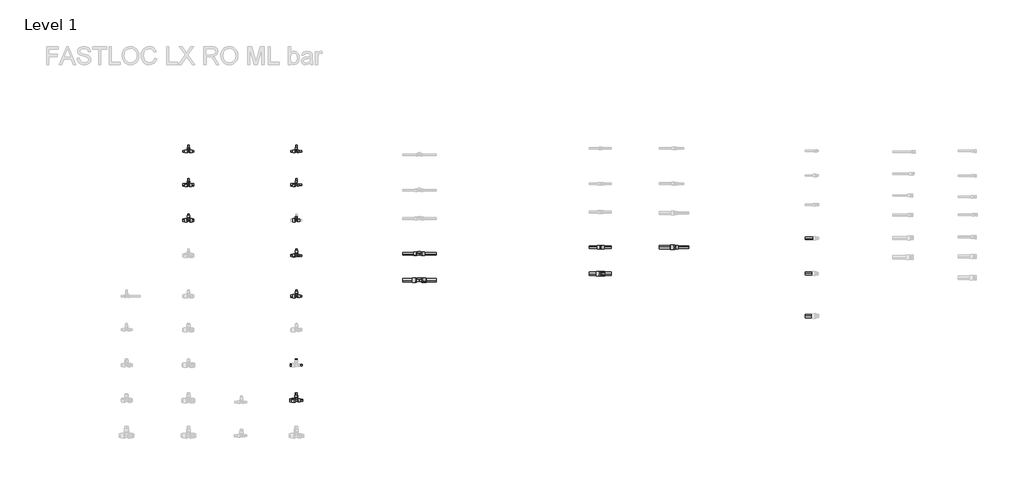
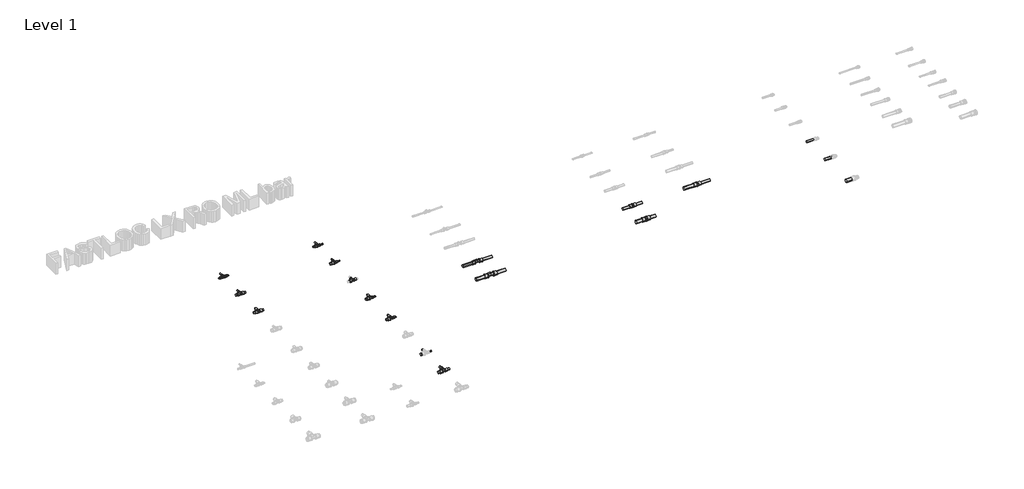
# One storey, part 17 of 78: 40 pipe segments, 14 pipe fittings.
"""IFC4 building model written with IfcOpenShell, lengths in millimetres."""

from ifc_helpers import new_model, si_unit, point, frame, frame_2d, origin, place, context, project, spatial, circle_curve, trimmed, segment, composite_curve, outline, extrude, transform, mapped, element, save
from components import pipe_fitting_14a26f43, pipe_fitting_91740978, pipe_fitting_5ae7c970, pipe_fitting_e97a97d3, pipe_fitting_d9a56b63, pipe_fitting_5d5decb5, pipe_fitting_c4e8b4db, pipe_fitting_8fb58d5f, pipe_fitting_db17a53a, pipe_fitting_3bea6388, pipe_fitting_e638986c, pipe_fitting_00caae07, pipe_fitting_f5731c1c, pipe_fitting_607ccf76

model = new_model("IFC4")

# Units and contexts
model_context = context("Model", 3, world=origin())
ifc_project = project(units=[si_unit("LENGTHUNIT", "METRE", prefix="MILLI")], contexts=[model_context])

# Site, building, storey
site = spatial("IfcSite", under=ifc_project)
building = spatial("IfcBuilding", under=site)
storey = spatial("IfcBuildingStorey", under=building, Name="Level 1", Elevation=0.0)

# Pipe fittings
placement = place(None, origin())
pipe_fitting_shape = pipe_fitting_14a26f43(model_context)
element("IfcPipeFitting", 1, ObjectType="FASTLOC_Coupling reduced LX : FSL C LX RO", at=placement, inside=storey, context=model_context, shape_type="MappedRepresentation", body=[
    mapped(pipe_fitting_shape, transform((30426.6928556, -28225.8821283, 0.0), x_axis=(1.0, 0.0, 0.0), y_axis=(0.0, 1.0, 0.0), z_axis=(0.0, 0.0, 1.0))),
])
pipe_fitting_2_shape = pipe_fitting_91740978(model_context)
element("IfcPipeFitting", 2, ObjectType="FASTLOC_T-piece internal thread LX : FSL T thread LX RO", at=placement, inside=storey, context=model_context, shape_type="MappedRepresentation", body=[
    mapped(pipe_fitting_2_shape, transform((27536.609585, -28299.8272875, 0.0), x_axis=(1.0, 0.0, 0.0), y_axis=(0.0, 1.0, 0.0), z_axis=(0.0, 0.0, 1.0))),
])
pipe_fitting_3_shape = pipe_fitting_5ae7c970(model_context)
element("IfcPipeFitting", 3, ObjectType="FASTLOC_T-piece_LX : FSL T-Piece LX FR", at=placement, inside=storey, context=model_context, shape_type="MappedRepresentation", body=[
    mapped(pipe_fitting_3_shape, transform((24926.7498072, -27140.2405791, 0.0), x_axis=(1.0, 0.0, 0.0), y_axis=(0.0, 1.0, 0.0), z_axis=(0.0, 0.0, 1.0))),
])
pipe_fitting_4_shape = pipe_fitting_e97a97d3(model_context)
element("IfcPipeFitting", 4, ObjectType="FASTLOC_T-piece_LX : FSL T-Piece LX RO", at=placement, inside=storey, context=model_context, shape_type="MappedRepresentation", body=[
    mapped(pipe_fitting_4_shape, transform((24926.7498072, -27520.2405791, 0.0), x_axis=(1.0, 0.0, 0.0), y_axis=(0.0, 1.0, 0.0), z_axis=(0.0, 0.0, 1.0))),
])
pipe_fitting_5_shape = pipe_fitting_d9a56b63(model_context)
element("IfcPipeFitting", 5, ObjectType="FASTLOC_T-piece_LX : FSL T-Piece LX RO", at=placement, inside=storey, context=model_context, shape_type="MappedRepresentation", body=[
    mapped(pipe_fitting_5_shape, transform((24926.7498072, -27920.2405791, 0.0), x_axis=(1.0, 0.0, 0.0), y_axis=(0.0, 1.0, 0.0), z_axis=(0.0, 0.0, 1.0))),
])
pipe_fitting_6_shape = pipe_fitting_5d5decb5(model_context)
element("IfcPipeFitting", 6, ObjectType="FASTLOC_T-piece_LX : FSL T-Piece LX RO", at=placement, inside=storey, context=model_context, shape_type="MappedRepresentation", body=[
    mapped(pipe_fitting_6_shape, transform((26146.7498072, -28780.2405791, 0.0), x_axis=(1.0, 0.0, 0.0), y_axis=(0.0, 1.0, 0.0), z_axis=(0.0, 0.0, 1.0))),
])
pipe_fitting_7_shape = pipe_fitting_c4e8b4db(model_context)
element("IfcPipeFitting", 7, ObjectType="FASTLOC_T-piece_LX : FSL T-Piece LX RO", at=placement, inside=storey, context=model_context, shape_type="MappedRepresentation", body=[
    mapped(pipe_fitting_7_shape, transform((26146.7498072, -29960.2405791, 0.0), x_axis=(1.0, 0.0, 0.0), y_axis=(0.0, 1.0, 0.0), z_axis=(0.0, 0.0, 1.0))),
])
pipe_fitting_8_shape = pipe_fitting_8fb58d5f(model_context)
element("IfcPipeFitting", 8, ObjectType="FASTLOC_T-piece_LX : FSL T-Piece LX RO", at=placement, inside=storey, context=model_context, shape_type="MappedRepresentation", body=[
    mapped(pipe_fitting_8_shape, transform((26146.7498072, -27140.2405791, 0.0), x_axis=(1.0, 0.0, 0.0), y_axis=(0.0, 1.0, 0.0), z_axis=(0.0, 0.0, 1.0))),
])
pipe_fitting_9_shape = pipe_fitting_db17a53a(model_context)
element("IfcPipeFitting", 9, ObjectType="FASTLOC_T-piece_LX : FSL T-Piece LX RO", at=placement, inside=storey, context=model_context, shape_type="MappedRepresentation", body=[
    mapped(pipe_fitting_9_shape, transform((26146.7498072, -27520.2405791, 0.0), x_axis=(1.0, 0.0, 0.0), y_axis=(0.0, 1.0, 0.0), z_axis=(0.0, 0.0, 1.0))),
])
pipe_fitting_10_shape = pipe_fitting_3bea6388(model_context)
element("IfcPipeFitting", 10, ObjectType="FASTLOC_T-piece_LX : FSL T-Piece LX RO", at=placement, inside=storey, context=model_context, shape_type="MappedRepresentation", body=[
    mapped(pipe_fitting_10_shape, transform((26146.7498072, -27920.2405791, 0.0), x_axis=(1.0, 0.0, 0.0), y_axis=(0.0, 1.0, 0.0), z_axis=(0.0, 0.0, 1.0))),
])
pipe_fitting_11_shape = pipe_fitting_e638986c(model_context)
element("IfcPipeFitting", 11, ObjectType="FASTLOC_T-piece_LX : FSL T-Piece LX RO", at=placement, inside=storey, context=model_context, shape_type="MappedRepresentation", body=[
    mapped(pipe_fitting_11_shape, transform((26146.7498072, -28320.2405791, 0.0), x_axis=(1.0, 0.0, 0.0), y_axis=(0.0, 1.0, 0.0), z_axis=(0.0, 0.0, 1.0))),
])
pipe_fitting_12_shape = pipe_fitting_00caae07(model_context)
element("IfcPipeFitting", 12, ObjectType="FASTLOC_T-piece internal thread LX : FSL T thread LX RO", at=placement, inside=storey, context=model_context, shape_type="MappedRepresentation", body=[
    mapped(pipe_fitting_12_shape, transform((27536.609585, -28599.8272875, 0.0), x_axis=(1.0, 0.0, 0.0), y_axis=(0.0, 1.0, 0.0), z_axis=(0.0, 0.0, 1.0))),
])
pipe_fitting_13_shape = pipe_fitting_f5731c1c(model_context)
element("IfcPipeFitting", 13, ObjectType="FASTLOC_Coupling equal LX : FSL C LX RO", at=placement, inside=storey, context=model_context, shape_type="MappedRepresentation", body=[
    mapped(pipe_fitting_13_shape, transform((29588.3790161, -28225.8821283, 0.0), x_axis=(1.0, 0.0, 0.0), y_axis=(0.0, 1.0, 0.0), z_axis=(0.0, 0.0, 1.0))),
])
pipe_fitting_14_shape = pipe_fitting_607ccf76(model_context)
element("IfcPipeFitting", 14, ObjectType="FASTLOC_Coupling equal LX : FSL C LX RO", at=placement, inside=storey, context=model_context, shape_type="MappedRepresentation", body=[
    mapped(pipe_fitting_14_shape, transform((29588.3790161, -28525.8821283, 0.0), x_axis=(1.0, 0.0, 0.0), y_axis=(0.0, 1.0, 0.0), z_axis=(0.0, 0.0, 1.0))),
])

# Pipe segments
element("IfcPipeSegment", 15, ObjectType="FASTLOC LX ML RO bar", at=placement, inside=storey, context=model_context, shape_type="SweptSolid", body=[
    extrude(outline(composite_curve([segment(trimmed(circle_curve(frame_2d((-27140.2405791, 0.0)), 8.0), [point((-27148.2405791, 0.0))], [point((-27140.2405791, 8.0))], False, "CARTESIAN"), True, "CONTINUOUS"), segment(trimmed(circle_curve(frame_2d((-27140.2405791, 0.0)), 8.0), [point((-27140.2405791, 8.0))], [point((-27132.2405791, 0.0))], False, "CARTESIAN"), True, "CONTINUOUS"), segment(trimmed(circle_curve(frame_2d((-27140.2405791, 0.0)), 8.0), [point((-27132.2405791, 0.0))], [point((-27140.2405791, -8.0))], False, "CARTESIAN"), True, "CONTINUOUS"), segment(trimmed(circle_curve(frame_2d((-27140.2405791, 0.0)), 8.0), [point((-27140.2405791, -8.0))], [point((-27148.2405791, 0.0))], False, "CARTESIAN"), True, "CONTINUOUS")], self_intersect=False)), frame((24942.0498072, 0.0, 0.0), z_axis=(1.0, 0.0, 0.0), x_axis=(0.0, 1.0, 0.0)), (0.0, 0.0, 1.0), 46.7),
])
element("IfcPipeSegment", 16, ObjectType="FASTLOC LX ML RO bar", at=placement, inside=storey, context=model_context, shape_type="SweptSolid", body=[
    extrude(outline(composite_curve([segment(trimmed(circle_curve(frame_2d((-27140.2405791, 0.0)), 8.0), [point((-27132.2405791, 0.0))], [point((-27140.2405791, -8.0))], False, "CARTESIAN"), True, "CONTINUOUS"), segment(trimmed(circle_curve(frame_2d((-27140.2405791, 0.0)), 8.0), [point((-27140.2405791, -8.0))], [point((-27148.2405791, 0.0))], False, "CARTESIAN"), True, "CONTINUOUS"), segment(trimmed(circle_curve(frame_2d((-27140.2405791, 0.0)), 8.0), [point((-27148.2405791, 0.0))], [point((-27140.2405791, 8.0))], False, "CARTESIAN"), True, "CONTINUOUS"), segment(trimmed(circle_curve(frame_2d((-27140.2405791, 0.0)), 8.0), [point((-27140.2405791, 8.0))], [point((-27132.2405791, 0.0))], False, "CARTESIAN"), True, "CONTINUOUS")], self_intersect=False)), frame((24864.7498072, 0.0, 0.0), z_axis=(1.0, 0.0, 0.0), x_axis=(0.0, 1.0, 0.0)), (0.0, 0.0, 1.0), 46.7),
])
element("IfcPipeSegment", 17, ObjectType="FASTLOC LX ML RO bar", at=placement, inside=storey, context=model_context, shape_type="SweptSolid", body=[
    extrude(outline(composite_curve([segment(trimmed(circle_curve(frame_2d((0.0, 24926.7498072)), 8.0), [point((0.0, 24934.7498072))], [point((8.0, 24926.7498072))], False, "CARTESIAN"), True, "CONTINUOUS"), segment(trimmed(circle_curve(frame_2d((0.0, 24926.7498072)), 8.0), [point((8.0, 24926.7498072))], [point((0.0, 24918.7498072))], False, "CARTESIAN"), True, "CONTINUOUS"), segment(trimmed(circle_curve(frame_2d((0.0, 24926.7498072)), 8.0), [point((0.0, 24918.7498072))], [point((-8.0, 24926.7498072))], False, "CARTESIAN"), True, "CONTINUOUS"), segment(trimmed(circle_curve(frame_2d((0.0, 24926.7498072)), 8.0), [point((-8.0, 24926.7498072))], [point((0.0, 24934.7498072))], False, "CARTESIAN"), True, "CONTINUOUS")], self_intersect=False)), frame((0.0, -27113.9405791, 0.0), z_axis=(0.0, 1.0, 0.0), x_axis=(0.0, 0.0, 1.0)), (0.0, 0.0, 1.0), 46.0),
])
element("IfcPipeSegment", 18, ObjectType="FASTLOC LX ML RO bar", at=placement, inside=storey, context=model_context, shape_type="SweptSolid", body=[
    extrude(outline(composite_curve([segment(trimmed(circle_curve(frame_2d((-27520.2405791, 0.0)), 12.5), [point((-27532.7405791, 0.0))], [point((-27520.2405791, 12.5))], False, "CARTESIAN"), True, "CONTINUOUS"), segment(trimmed(circle_curve(frame_2d((-27520.2405791, 0.0)), 12.5), [point((-27520.2405791, 12.5))], [point((-27507.7405791, 0.0))], False, "CARTESIAN"), True, "CONTINUOUS"), segment(trimmed(circle_curve(frame_2d((-27520.2405791, 0.0)), 12.5), [point((-27507.7405791, 0.0))], [point((-27520.2405791, -12.5))], False, "CARTESIAN"), True, "CONTINUOUS"), segment(trimmed(circle_curve(frame_2d((-27520.2405791, 0.0)), 12.5), [point((-27520.2405791, -12.5))], [point((-27532.7405791, 0.0))], False, "CARTESIAN"), True, "CONTINUOUS")], self_intersect=False)), frame((24942.9498072, 0.0, 0.0), z_axis=(1.0, 0.0, 0.0), x_axis=(0.0, 1.0, 0.0)), (0.0, 0.0, 1.0), 45.8),
])
element("IfcPipeSegment", 19, ObjectType="FASTLOC LX ML RO bar", at=placement, inside=storey, context=model_context, shape_type="SweptSolid", body=[
    extrude(outline(composite_curve([segment(trimmed(circle_curve(frame_2d((-27520.2405791, 0.0)), 12.5), [point((-27507.7405791, 0.0))], [point((-27520.2405791, -12.5))], False, "CARTESIAN"), True, "CONTINUOUS"), segment(trimmed(circle_curve(frame_2d((-27520.2405791, 0.0)), 12.5), [point((-27520.2405791, -12.5))], [point((-27532.7405791, 0.0))], False, "CARTESIAN"), True, "CONTINUOUS"), segment(trimmed(circle_curve(frame_2d((-27520.2405791, 0.0)), 12.5), [point((-27532.7405791, 0.0))], [point((-27520.2405791, 12.5))], False, "CARTESIAN"), True, "CONTINUOUS"), segment(trimmed(circle_curve(frame_2d((-27520.2405791, 0.0)), 12.5), [point((-27520.2405791, 12.5))], [point((-27507.7405791, 0.0))], False, "CARTESIAN"), True, "CONTINUOUS")], self_intersect=False)), frame((24864.7498072, 0.0, 0.0), z_axis=(1.0, 0.0, 0.0), x_axis=(0.0, 1.0, 0.0)), (0.0, 0.0, 1.0), 45.8),
])
element("IfcPipeSegment", 20, ObjectType="FASTLOC LX ML RO bar", at=placement, inside=storey, context=model_context, shape_type="SweptSolid", body=[
    extrude(outline(composite_curve([segment(trimmed(circle_curve(frame_2d((0.0, 24926.7498072)), 8.0), [point((0.0, 24934.7498072))], [point((8.0, 24926.7498072))], False, "CARTESIAN"), True, "CONTINUOUS"), segment(trimmed(circle_curve(frame_2d((0.0, 24926.7498072)), 8.0), [point((8.0, 24926.7498072))], [point((0.0, 24918.7498072))], False, "CARTESIAN"), True, "CONTINUOUS"), segment(trimmed(circle_curve(frame_2d((0.0, 24926.7498072)), 8.0), [point((0.0, 24918.7498072))], [point((-8.0, 24926.7498072))], False, "CARTESIAN"), True, "CONTINUOUS"), segment(trimmed(circle_curve(frame_2d((0.0, 24926.7498072)), 8.0), [point((-8.0, 24926.7498072))], [point((0.0, 24934.7498072))], False, "CARTESIAN"), True, "CONTINUOUS")], self_intersect=False)), frame((0.0, -27491.2405791, 0.0), z_axis=(0.0, 1.0, 0.0), x_axis=(0.0, 0.0, 1.0)), (0.0, 0.0, 1.0), 43.3),
])
element("IfcPipeSegment", 21, ObjectType="FASTLOC LX ML RO bar", at=placement, inside=storey, context=model_context, shape_type="SweptSolid", body=[
    extrude(outline(composite_curve([segment(trimmed(circle_curve(frame_2d((-27920.2405791, 0.0)), 12.5), [point((-27932.7405791, 0.0))], [point((-27920.2405791, 12.5))], False, "CARTESIAN"), True, "CONTINUOUS"), segment(trimmed(circle_curve(frame_2d((-27920.2405791, 0.0)), 12.5), [point((-27920.2405791, 12.5))], [point((-27907.7405791, 0.0))], False, "CARTESIAN"), True, "CONTINUOUS"), segment(trimmed(circle_curve(frame_2d((-27920.2405791, 0.0)), 12.5), [point((-27907.7405791, 0.0))], [point((-27920.2405791, -12.5))], False, "CARTESIAN"), True, "CONTINUOUS"), segment(trimmed(circle_curve(frame_2d((-27920.2405791, 0.0)), 12.5), [point((-27920.2405791, -12.5))], [point((-27932.7405791, 0.0))], False, "CARTESIAN"), True, "CONTINUOUS")], self_intersect=False)), frame((24944.8498072, 0.0, 0.0), z_axis=(1.0, 0.0, 0.0), x_axis=(0.0, 1.0, 0.0)), (0.0, 0.0, 1.0), 43.9),
])
element("IfcPipeSegment", 22, ObjectType="FASTLOC LX ML RO bar", at=placement, inside=storey, context=model_context, shape_type="SweptSolid", body=[
    extrude(outline(composite_curve([segment(trimmed(circle_curve(frame_2d((-27920.2405791, 0.0)), 12.5), [point((-27907.7405791, 0.0))], [point((-27920.2405791, -12.5))], False, "CARTESIAN"), True, "CONTINUOUS"), segment(trimmed(circle_curve(frame_2d((-27920.2405791, 0.0)), 12.5), [point((-27920.2405791, -12.5))], [point((-27932.7405791, 0.0))], False, "CARTESIAN"), True, "CONTINUOUS"), segment(trimmed(circle_curve(frame_2d((-27920.2405791, 0.0)), 12.5), [point((-27932.7405791, 0.0))], [point((-27920.2405791, 12.5))], False, "CARTESIAN"), True, "CONTINUOUS"), segment(trimmed(circle_curve(frame_2d((-27920.2405791, 0.0)), 12.5), [point((-27920.2405791, 12.5))], [point((-27907.7405791, 0.0))], False, "CARTESIAN"), True, "CONTINUOUS")], self_intersect=False)), frame((24864.7498072, 0.0, 0.0), z_axis=(1.0, 0.0, 0.0), x_axis=(0.0, 1.0, 0.0)), (0.0, 0.0, 1.0), 43.9),
])
element("IfcPipeSegment", 23, ObjectType="FASTLOC LX ML RO bar", at=placement, inside=storey, context=model_context, shape_type="SweptSolid", body=[
    extrude(outline(composite_curve([segment(trimmed(circle_curve(frame_2d((0.0, 24926.7498072)), 8.0), [point((0.0, 24934.7498072))], [point((8.0, 24926.7498072))], False, "CARTESIAN"), True, "CONTINUOUS"), segment(trimmed(circle_curve(frame_2d((0.0, 24926.7498072)), 8.0), [point((8.0, 24926.7498072))], [point((0.0, 24918.7498072))], False, "CARTESIAN"), True, "CONTINUOUS"), segment(trimmed(circle_curve(frame_2d((0.0, 24926.7498072)), 8.0), [point((0.0, 24918.7498072))], [point((-8.0, 24926.7498072))], False, "CARTESIAN"), True, "CONTINUOUS"), segment(trimmed(circle_curve(frame_2d((0.0, 24926.7498072)), 8.0), [point((-8.0, 24926.7498072))], [point((0.0, 24934.7498072))], False, "CARTESIAN"), True, "CONTINUOUS")], self_intersect=False)), frame((0.0, -27891.0405791, 0.0), z_axis=(0.0, 1.0, 0.0), x_axis=(0.0, 0.0, 1.0)), (0.0, 0.0, 1.0), 43.1),
])
element("IfcPipeSegment", 24, ObjectType="FASTLOC LX ML RO bar", at=placement, inside=storey, context=model_context, shape_type="SweptSolid", body=[
    extrude(outline(composite_curve([segment(trimmed(circle_curve(frame_2d((-28780.2405791, 0.0)), 8.0), [point((-28788.2405791, 0.0))], [point((-28780.2405791, 8.0))], False, "CARTESIAN"), True, "CONTINUOUS"), segment(trimmed(circle_curve(frame_2d((-28780.2405791, 0.0)), 8.0), [point((-28780.2405791, 8.0))], [point((-28772.2405791, 0.0))], False, "CARTESIAN"), True, "CONTINUOUS"), segment(trimmed(circle_curve(frame_2d((-28780.2405791, 0.0)), 8.0), [point((-28772.2405791, 0.0))], [point((-28780.2405791, -8.0))], False, "CARTESIAN"), True, "CONTINUOUS"), segment(trimmed(circle_curve(frame_2d((-28780.2405791, 0.0)), 8.0), [point((-28780.2405791, -8.0))], [point((-28788.2405791, 0.0))], False, "CARTESIAN"), True, "CONTINUOUS")], self_intersect=False)), frame((26164.1498072, 0.0, 0.0), z_axis=(1.0, 0.0, 0.0), x_axis=(0.0, 1.0, 0.0)), (0.0, 0.0, 1.0), 44.6),
])
element("IfcPipeSegment", 25, ObjectType="FASTLOC LX ML RO bar", at=placement, inside=storey, context=model_context, shape_type="SweptSolid", body=[
    extrude(outline(composite_curve([segment(trimmed(circle_curve(frame_2d((-28780.2405791, 0.0)), 12.5), [point((-28767.7405791, 0.0))], [point((-28780.2405791, -12.5))], False, "CARTESIAN"), True, "CONTINUOUS"), segment(trimmed(circle_curve(frame_2d((-28780.2405791, 0.0)), 12.5), [point((-28780.2405791, -12.5))], [point((-28792.7405791, 0.0))], False, "CARTESIAN"), True, "CONTINUOUS"), segment(trimmed(circle_curve(frame_2d((-28780.2405791, 0.0)), 12.5), [point((-28792.7405791, 0.0))], [point((-28780.2405791, 12.5))], False, "CARTESIAN"), True, "CONTINUOUS"), segment(trimmed(circle_curve(frame_2d((-28780.2405791, 0.0)), 12.5), [point((-28780.2405791, 12.5))], [point((-28767.7405791, 0.0))], False, "CARTESIAN"), True, "CONTINUOUS")], self_intersect=False)), frame((26084.7498072, 0.0, 0.0), z_axis=(1.0, 0.0, 0.0), x_axis=(0.0, 1.0, 0.0)), (0.0, 0.0, 1.0), 43.7),
])
element("IfcPipeSegment", 26, ObjectType="FASTLOC LX ML RO bar", at=placement, inside=storey, context=model_context, shape_type="SweptSolid", body=[
    extrude(outline(composite_curve([segment(trimmed(circle_curve(frame_2d((0.0, 26146.7498072)), 8.0), [point((0.0, 26154.7498072))], [point((8.0, 26146.7498072))], False, "CARTESIAN"), True, "CONTINUOUS"), segment(trimmed(circle_curve(frame_2d((0.0, 26146.7498072)), 8.0), [point((8.0, 26146.7498072))], [point((0.0, 26138.7498072))], False, "CARTESIAN"), True, "CONTINUOUS"), segment(trimmed(circle_curve(frame_2d((0.0, 26146.7498072)), 8.0), [point((0.0, 26138.7498072))], [point((-8.0, 26146.7498072))], False, "CARTESIAN"), True, "CONTINUOUS"), segment(trimmed(circle_curve(frame_2d((0.0, 26146.7498072)), 8.0), [point((-8.0, 26146.7498072))], [point((0.0, 26154.7498072))], False, "CARTESIAN"), True, "CONTINUOUS")], self_intersect=False)), frame((0.0, -28751.0405791, 0.0), z_axis=(0.0, 1.0, 0.0), x_axis=(0.0, 0.0, 1.0)), (0.0, 0.0, 1.0), 43.1),
])
element("IfcPipeSegment", 27, ObjectType="FASTLOC LX ML RO bar", at=placement, inside=storey, context=model_context, shape_type="SweptSolid", body=[
    extrude(outline(composite_curve([segment(trimmed(circle_curve(frame_2d((-29560.2405791, 0.0)), 8.0), [point((-29568.2405791, 0.0))], [point((-29560.2405791, 8.0))], False, "CARTESIAN"), True, "CONTINUOUS"), segment(trimmed(circle_curve(frame_2d((-29560.2405791, 0.0)), 8.0), [point((-29560.2405791, 8.0))], [point((-29552.2405791, 0.0))], False, "CARTESIAN"), True, "CONTINUOUS"), segment(trimmed(circle_curve(frame_2d((-29560.2405791, 0.0)), 8.0), [point((-29552.2405791, 0.0))], [point((-29560.2405791, -8.0))], False, "CARTESIAN"), True, "CONTINUOUS"), segment(trimmed(circle_curve(frame_2d((-29560.2405791, 0.0)), 8.0), [point((-29560.2405791, -8.0))], [point((-29568.2405791, 0.0))], False, "CARTESIAN"), True, "CONTINUOUS")], self_intersect=False)), frame((26165.9498072, 0.0, 0.0), z_axis=(1.0, 0.0, 0.0), x_axis=(0.0, 1.0, 0.0)), (0.0, 0.0, 1.0), 49.8),
])
element("IfcPipeSegment", 28, ObjectType="FASTLOC LX ML RO bar", at=placement, inside=storey, context=model_context, shape_type="SweptSolid", body=[
    extrude(outline(composite_curve([segment(trimmed(circle_curve(frame_2d((-29560.2405791, 0.0)), 16.0), [point((-29544.2405791, 0.0))], [point((-29560.2405791, -16.0))], False, "CARTESIAN"), True, "CONTINUOUS"), segment(trimmed(circle_curve(frame_2d((-29560.2405791, 0.0)), 16.0), [point((-29560.2405791, -16.0))], [point((-29576.2405791, 0.0))], False, "CARTESIAN"), True, "CONTINUOUS"), segment(trimmed(circle_curve(frame_2d((-29560.2405791, 0.0)), 16.0), [point((-29576.2405791, 0.0))], [point((-29560.2405791, 16.0))], False, "CARTESIAN"), True, "CONTINUOUS"), segment(trimmed(circle_curve(frame_2d((-29560.2405791, 0.0)), 16.0), [point((-29560.2405791, 16.0))], [point((-29544.2405791, 0.0))], False, "CARTESIAN"), True, "CONTINUOUS")], self_intersect=False)), frame((26077.7498072, 0.0, 0.0), z_axis=(1.0, 0.0, 0.0), x_axis=(0.0, 1.0, 0.0)), (0.0, 0.0, 1.0), 46.9),
])
element("IfcPipeSegment", 29, ObjectType="FASTLOC LX ML RO bar", at=placement, inside=storey, context=model_context, shape_type="SweptSolid", body=[
    extrude(outline(composite_curve([segment(trimmed(circle_curve(frame_2d((0.0, 26146.7498072)), 12.5), [point((0.0, 26159.2498072))], [point((12.5, 26146.7498072))], False, "CARTESIAN"), True, "CONTINUOUS"), segment(trimmed(circle_curve(frame_2d((0.0, 26146.7498072)), 12.5), [point((12.5, 26146.7498072))], [point((0.0, 26134.2498072))], False, "CARTESIAN"), True, "CONTINUOUS"), segment(trimmed(circle_curve(frame_2d((0.0, 26146.7498072)), 12.5), [point((0.0, 26134.2498072))], [point((-12.5, 26146.7498072))], False, "CARTESIAN"), True, "CONTINUOUS"), segment(trimmed(circle_curve(frame_2d((0.0, 26146.7498072)), 12.5), [point((-12.5, 26146.7498072))], [point((0.0, 26159.2498072))], False, "CARTESIAN"), True, "CONTINUOUS")], self_intersect=False)), frame((0.0, -29525.8405791, 0.0), z_axis=(0.0, 1.0, 0.0), x_axis=(0.0, 0.0, 1.0)), (0.0, 0.0, 1.0), 37.9),
])
element("IfcPipeSegment", 30, ObjectType="FASTLOC LX ML RO bar", at=placement, inside=storey, context=model_context, shape_type="SweptSolid", body=[
    extrude(outline(composite_curve([segment(trimmed(circle_curve(frame_2d((-29960.2405791, 0.0)), 12.5), [point((-29972.7405791, 0.0))], [point((-29960.2405791, 12.5))], False, "CARTESIAN"), True, "CONTINUOUS"), segment(trimmed(circle_curve(frame_2d((-29960.2405791, 0.0)), 12.5), [point((-29960.2405791, 12.5))], [point((-29947.7405791, 0.0))], False, "CARTESIAN"), True, "CONTINUOUS"), segment(trimmed(circle_curve(frame_2d((-29960.2405791, 0.0)), 12.5), [point((-29947.7405791, 0.0))], [point((-29960.2405791, -12.5))], False, "CARTESIAN"), True, "CONTINUOUS"), segment(trimmed(circle_curve(frame_2d((-29960.2405791, 0.0)), 12.5), [point((-29960.2405791, -12.5))], [point((-29972.7405791, 0.0))], False, "CARTESIAN"), True, "CONTINUOUS")], self_intersect=False)), frame((26166.8498072, 0.0, 0.0), z_axis=(1.0, 0.0, 0.0), x_axis=(0.0, 1.0, 0.0)), (0.0, 0.0, 1.0), 53.5),
])
element("IfcPipeSegment", 31, ObjectType="FASTLOC LX ML RO bar", at=placement, inside=storey, context=model_context, shape_type="SweptSolid", body=[
    extrude(outline(composite_curve([segment(trimmed(circle_curve(frame_2d((-29960.2405791, 0.0)), 16.0), [point((-29944.2405791, 0.0))], [point((-29960.2405791, -16.0))], False, "CARTESIAN"), True, "CONTINUOUS"), segment(trimmed(circle_curve(frame_2d((-29960.2405791, 0.0)), 16.0), [point((-29960.2405791, -16.0))], [point((-29976.2405791, 0.0))], False, "CARTESIAN"), True, "CONTINUOUS"), segment(trimmed(circle_curve(frame_2d((-29960.2405791, 0.0)), 16.0), [point((-29976.2405791, 0.0))], [point((-29960.2405791, 16.0))], False, "CARTESIAN"), True, "CONTINUOUS"), segment(trimmed(circle_curve(frame_2d((-29960.2405791, 0.0)), 16.0), [point((-29960.2405791, 16.0))], [point((-29944.2405791, 0.0))], False, "CARTESIAN"), True, "CONTINUOUS")], self_intersect=False)), frame((26073.1498072, 0.0, 0.0), z_axis=(1.0, 0.0, 0.0), x_axis=(0.0, 1.0, 0.0)), (0.0, 0.0, 1.0), 51.5),
])
element("IfcPipeSegment", 32, ObjectType="FASTLOC LX ML RO bar", at=placement, inside=storey, context=model_context, shape_type="SweptSolid", body=[
    extrude(outline(composite_curve([segment(trimmed(circle_curve(frame_2d((0.0, 26146.7498072)), 12.5), [point((0.0, 26159.2498072))], [point((12.5, 26146.7498072))], False, "CARTESIAN"), True, "CONTINUOUS"), segment(trimmed(circle_curve(frame_2d((0.0, 26146.7498072)), 12.5), [point((12.5, 26146.7498072))], [point((0.0, 26134.2498072))], False, "CARTESIAN"), True, "CONTINUOUS"), segment(trimmed(circle_curve(frame_2d((0.0, 26146.7498072)), 12.5), [point((0.0, 26134.2498072))], [point((-12.5, 26146.7498072))], False, "CARTESIAN"), True, "CONTINUOUS"), segment(trimmed(circle_curve(frame_2d((0.0, 26146.7498072)), 12.5), [point((-12.5, 26146.7498072))], [point((0.0, 26159.2498072))], False, "CARTESIAN"), True, "CONTINUOUS")], self_intersect=False)), frame((0.0, -29925.8405791, 0.0), z_axis=(0.0, 1.0, 0.0), x_axis=(0.0, 0.0, 1.0)), (0.0, 0.0, 1.0), 53.4),
])
element("IfcPipeSegment", 33, ObjectType="FASTLOC LX ML RO bar", at=placement, inside=storey, context=model_context, shape_type="SweptSolid", body=[
    extrude(outline(composite_curve([segment(trimmed(circle_curve(frame_2d((-27140.2405791, 0.0)), 8.0), [point((-27148.2405791, 0.0))], [point((-27140.2405791, 8.0))], False, "CARTESIAN"), True, "CONTINUOUS"), segment(trimmed(circle_curve(frame_2d((-27140.2405791, 0.0)), 8.0), [point((-27140.2405791, 8.0))], [point((-27132.2405791, 0.0))], False, "CARTESIAN"), True, "CONTINUOUS"), segment(trimmed(circle_curve(frame_2d((-27140.2405791, 0.0)), 8.0), [point((-27132.2405791, 0.0))], [point((-27140.2405791, -8.0))], False, "CARTESIAN"), True, "CONTINUOUS"), segment(trimmed(circle_curve(frame_2d((-27140.2405791, 0.0)), 8.0), [point((-27140.2405791, -8.0))], [point((-27148.2405791, 0.0))], False, "CARTESIAN"), True, "CONTINUOUS")], self_intersect=False)), frame((26161.8498072, 0.0, 0.0), z_axis=(1.0, 0.0, 0.0), x_axis=(0.0, 1.0, 0.0)), (0.0, 0.0, 1.0), 46.9),
])
element("IfcPipeSegment", 34, ObjectType="FASTLOC LX ML RO bar", at=placement, inside=storey, context=model_context, shape_type="SweptSolid", body=[
    extrude(outline(composite_curve([segment(trimmed(circle_curve(frame_2d((-27140.2405791, 0.0)), 8.0), [point((-27132.2405791, 0.0))], [point((-27140.2405791, -8.0))], False, "CARTESIAN"), True, "CONTINUOUS"), segment(trimmed(circle_curve(frame_2d((-27140.2405791, 0.0)), 8.0), [point((-27140.2405791, -8.0))], [point((-27148.2405791, 0.0))], False, "CARTESIAN"), True, "CONTINUOUS"), segment(trimmed(circle_curve(frame_2d((-27140.2405791, 0.0)), 8.0), [point((-27148.2405791, 0.0))], [point((-27140.2405791, 8.0))], False, "CARTESIAN"), True, "CONTINUOUS"), segment(trimmed(circle_curve(frame_2d((-27140.2405791, 0.0)), 8.0), [point((-27140.2405791, 8.0))], [point((-27132.2405791, 0.0))], False, "CARTESIAN"), True, "CONTINUOUS")], self_intersect=False)), frame((26084.7498072, 0.0, 0.0), z_axis=(1.0, 0.0, 0.0), x_axis=(0.0, 1.0, 0.0)), (0.0, 0.0, 1.0), 46.5),
])
element("IfcPipeSegment", 35, ObjectType="FASTLOC LX ML RO bar", at=placement, inside=storey, context=model_context, shape_type="SweptSolid", body=[
    extrude(outline(composite_curve([segment(trimmed(circle_curve(frame_2d((0.0, 26146.7498072)), 8.0), [point((0.0, 26154.7498072))], [point((8.0, 26146.7498072))], False, "CARTESIAN"), True, "CONTINUOUS"), segment(trimmed(circle_curve(frame_2d((0.0, 26146.7498072)), 8.0), [point((8.0, 26146.7498072))], [point((0.0, 26138.7498072))], False, "CARTESIAN"), True, "CONTINUOUS"), segment(trimmed(circle_curve(frame_2d((0.0, 26146.7498072)), 8.0), [point((0.0, 26138.7498072))], [point((-8.0, 26146.7498072))], False, "CARTESIAN"), True, "CONTINUOUS"), segment(trimmed(circle_curve(frame_2d((0.0, 26146.7498072)), 8.0), [point((-8.0, 26146.7498072))], [point((0.0, 26154.7498072))], False, "CARTESIAN"), True, "CONTINUOUS")], self_intersect=False)), frame((0.0, -27113.8405791, 0.0), z_axis=(0.0, 1.0, 0.0), x_axis=(0.0, 0.0, 1.0)), (0.0, 0.0, 1.0), 45.9),
])
element("IfcPipeSegment", 36, ObjectType="FASTLOC LX ML RO bar", at=placement, inside=storey, context=model_context, shape_type="SweptSolid", body=[
    extrude(outline(composite_curve([segment(trimmed(circle_curve(frame_2d((-27520.2405791, 0.0)), 8.0), [point((-27528.2405791, 0.0))], [point((-27520.2405791, 8.0))], False, "CARTESIAN"), True, "CONTINUOUS"), segment(trimmed(circle_curve(frame_2d((-27520.2405791, 0.0)), 8.0), [point((-27520.2405791, 8.0))], [point((-27512.2405791, 0.0))], False, "CARTESIAN"), True, "CONTINUOUS"), segment(trimmed(circle_curve(frame_2d((-27520.2405791, 0.0)), 8.0), [point((-27512.2405791, 0.0))], [point((-27520.2405791, -8.0))], False, "CARTESIAN"), True, "CONTINUOUS"), segment(trimmed(circle_curve(frame_2d((-27520.2405791, 0.0)), 8.0), [point((-27520.2405791, -8.0))], [point((-27528.2405791, 0.0))], False, "CARTESIAN"), True, "CONTINUOUS")], self_intersect=False)), frame((26161.8498072, 0.0, 0.0), z_axis=(1.0, 0.0, 0.0), x_axis=(0.0, 1.0, 0.0)), (0.0, 0.0, 1.0), 46.9),
])
element("IfcPipeSegment", 37, ObjectType="FASTLOC LX ML RO bar", at=placement, inside=storey, context=model_context, shape_type="SweptSolid", body=[
    extrude(outline(composite_curve([segment(trimmed(circle_curve(frame_2d((-27520.2405791, 0.0)), 12.5), [point((-27507.7405791, 0.0))], [point((-27520.2405791, -12.5))], False, "CARTESIAN"), True, "CONTINUOUS"), segment(trimmed(circle_curve(frame_2d((-27520.2405791, 0.0)), 12.5), [point((-27520.2405791, -12.5))], [point((-27532.7405791, 0.0))], False, "CARTESIAN"), True, "CONTINUOUS"), segment(trimmed(circle_curve(frame_2d((-27520.2405791, 0.0)), 12.5), [point((-27532.7405791, 0.0))], [point((-27520.2405791, 12.5))], False, "CARTESIAN"), True, "CONTINUOUS"), segment(trimmed(circle_curve(frame_2d((-27520.2405791, 0.0)), 12.5), [point((-27520.2405791, 12.5))], [point((-27507.7405791, 0.0))], False, "CARTESIAN"), True, "CONTINUOUS")], self_intersect=False)), frame((26084.7498072, 0.0, 0.0), z_axis=(1.0, 0.0, 0.0), x_axis=(0.0, 1.0, 0.0)), (0.0, 0.0, 1.0), 45.6),
])
element("IfcPipeSegment", 38, ObjectType="FASTLOC LX ML RO bar", at=placement, inside=storey, context=model_context, shape_type="SweptSolid", body=[
    extrude(outline(composite_curve([segment(trimmed(circle_curve(frame_2d((0.0, 26146.7498072)), 8.0), [point((0.0, 26154.7498072))], [point((8.0, 26146.7498072))], False, "CARTESIAN"), True, "CONTINUOUS"), segment(trimmed(circle_curve(frame_2d((0.0, 26146.7498072)), 8.0), [point((8.0, 26146.7498072))], [point((0.0, 26138.7498072))], False, "CARTESIAN"), True, "CONTINUOUS"), segment(trimmed(circle_curve(frame_2d((0.0, 26146.7498072)), 8.0), [point((0.0, 26138.7498072))], [point((-8.0, 26146.7498072))], False, "CARTESIAN"), True, "CONTINUOUS"), segment(trimmed(circle_curve(frame_2d((0.0, 26146.7498072)), 8.0), [point((-8.0, 26146.7498072))], [point((0.0, 26154.7498072))], False, "CARTESIAN"), True, "CONTINUOUS")], self_intersect=False)), frame((0.0, -27491.1405791, 0.0), z_axis=(0.0, 1.0, 0.0), x_axis=(0.0, 0.0, 1.0)), (0.0, 0.0, 1.0), 43.2),
])
element("IfcPipeSegment", 39, ObjectType="FASTLOC LX ML RO bar", at=placement, inside=storey, context=model_context, shape_type="SweptSolid", body=[
    extrude(outline(composite_curve([segment(trimmed(circle_curve(frame_2d((-28320.2405791, 0.0)), 8.0), [point((-28328.2405791, 0.0))], [point((-28320.2405791, 8.0))], False, "CARTESIAN"), True, "CONTINUOUS"), segment(trimmed(circle_curve(frame_2d((-28320.2405791, 0.0)), 8.0), [point((-28320.2405791, 8.0))], [point((-28312.2405791, 0.0))], False, "CARTESIAN"), True, "CONTINUOUS"), segment(trimmed(circle_curve(frame_2d((-28320.2405791, 0.0)), 8.0), [point((-28312.2405791, 0.0))], [point((-28320.2405791, -8.0))], False, "CARTESIAN"), True, "CONTINUOUS"), segment(trimmed(circle_curve(frame_2d((-28320.2405791, 0.0)), 8.0), [point((-28320.2405791, -8.0))], [point((-28328.2405791, 0.0))], False, "CARTESIAN"), True, "CONTINUOUS")], self_intersect=False)), frame((26163.7498072, 0.0, 0.0), z_axis=(1.0, 0.0, 0.0), x_axis=(0.0, 1.0, 0.0)), (0.0, 0.0, 1.0), 45.0),
])
element("IfcPipeSegment", 40, ObjectType="FASTLOC LX ML RO bar", at=placement, inside=storey, context=model_context, shape_type="SweptSolid", body=[
    extrude(outline(composite_curve([segment(trimmed(circle_curve(frame_2d((-28320.2405791, 0.0)), 12.5), [point((-28307.7405791, 0.0))], [point((-28320.2405791, -12.5))], False, "CARTESIAN"), True, "CONTINUOUS"), segment(trimmed(circle_curve(frame_2d((-28320.2405791, 0.0)), 12.5), [point((-28320.2405791, -12.5))], [point((-28332.7405791, 0.0))], False, "CARTESIAN"), True, "CONTINUOUS"), segment(trimmed(circle_curve(frame_2d((-28320.2405791, 0.0)), 12.5), [point((-28332.7405791, 0.0))], [point((-28320.2405791, 12.5))], False, "CARTESIAN"), True, "CONTINUOUS"), segment(trimmed(circle_curve(frame_2d((-28320.2405791, 0.0)), 12.5), [point((-28320.2405791, 12.5))], [point((-28307.7405791, 0.0))], False, "CARTESIAN"), True, "CONTINUOUS")], self_intersect=False)), frame((26084.7498072, 0.0, 0.0), z_axis=(1.0, 0.0, 0.0), x_axis=(0.0, 1.0, 0.0)), (0.0, 0.0, 1.0), 43.7),
])
element("IfcPipeSegment", 41, ObjectType="FASTLOC LX ML RO bar", at=placement, inside=storey, context=model_context, shape_type="SweptSolid", body=[
    extrude(outline(composite_curve([segment(trimmed(circle_curve(frame_2d((0.0, 26146.7498072)), 8.0), [point((0.0, 26154.7498072))], [point((8.0, 26146.7498072))], False, "CARTESIAN"), True, "CONTINUOUS"), segment(trimmed(circle_curve(frame_2d((0.0, 26146.7498072)), 8.0), [point((8.0, 26146.7498072))], [point((0.0, 26138.7498072))], False, "CARTESIAN"), True, "CONTINUOUS"), segment(trimmed(circle_curve(frame_2d((0.0, 26146.7498072)), 8.0), [point((0.0, 26138.7498072))], [point((-8.0, 26146.7498072))], False, "CARTESIAN"), True, "CONTINUOUS"), segment(trimmed(circle_curve(frame_2d((0.0, 26146.7498072)), 8.0), [point((-8.0, 26146.7498072))], [point((0.0, 26154.7498072))], False, "CARTESIAN"), True, "CONTINUOUS")], self_intersect=False)), frame((0.0, -28291.0405791, 0.0), z_axis=(0.0, 1.0, 0.0), x_axis=(0.0, 0.0, 1.0)), (0.0, 0.0, 1.0), 43.1),
])
element("IfcPipeSegment", 42, ObjectType="FASTLOC LX ML RO bar", at=placement, inside=storey, context=model_context, shape_type="SweptSolid", body=[
    extrude(outline(composite_curve([segment(trimmed(circle_curve(frame_2d((-28299.8272875, 0.0)), 16.0), [point((-28315.8272875, 0.0))], [point((-28299.8272875, 16.0))], False, "CARTESIAN"), True, "CONTINUOUS"), segment(trimmed(circle_curve(frame_2d((-28299.8272875, 0.0)), 16.0), [point((-28299.8272875, 16.0))], [point((-28283.8272875, 0.0))], False, "CARTESIAN"), True, "CONTINUOUS"), segment(trimmed(circle_curve(frame_2d((-28299.8272875, 0.0)), 16.0), [point((-28283.8272875, 0.0))], [point((-28299.8272875, -16.0))], False, "CARTESIAN"), True, "CONTINUOUS"), segment(trimmed(circle_curve(frame_2d((-28299.8272875, 0.0)), 16.0), [point((-28299.8272875, -16.0))], [point((-28315.8272875, 0.0))], False, "CARTESIAN"), True, "CONTINUOUS")], self_intersect=False)), frame((27569.609585, 0.0, 0.0), z_axis=(1.0, 0.0, 0.0), x_axis=(0.0, 1.0, 0.0)), (0.0, 0.0, 1.0), 159.0),
])
element("IfcPipeSegment", 43, ObjectType="FASTLOC LX ML RO bar", at=placement, inside=storey, context=model_context, shape_type="SweptSolid", body=[
    extrude(outline(composite_curve([segment(trimmed(circle_curve(frame_2d((-28299.8272875, 0.0)), 16.0), [point((-28283.8272875, 0.0))], [point((-28299.8272875, -16.0))], False, "CARTESIAN"), True, "CONTINUOUS"), segment(trimmed(circle_curve(frame_2d((-28299.8272875, 0.0)), 16.0), [point((-28299.8272875, -16.0))], [point((-28315.8272875, 0.0))], False, "CARTESIAN"), True, "CONTINUOUS"), segment(trimmed(circle_curve(frame_2d((-28299.8272875, 0.0)), 16.0), [point((-28315.8272875, 0.0))], [point((-28299.8272875, 16.0))], False, "CARTESIAN"), True, "CONTINUOUS"), segment(trimmed(circle_curve(frame_2d((-28299.8272875, 0.0)), 16.0), [point((-28299.8272875, 16.0))], [point((-28283.8272875, 0.0))], False, "CARTESIAN"), True, "CONTINUOUS")], self_intersect=False)), frame((27349.609585, 0.0, 0.0), z_axis=(1.0, 0.0, 0.0), x_axis=(0.0, 1.0, 0.0)), (0.0, 0.0, 1.0), 154.0),
])
element("IfcPipeSegment", 44, ObjectType="FASTLOC LX ML RO bar", at=placement, inside=storey, context=model_context, shape_type="SweptSolid", body=[
    extrude(outline(composite_curve([segment(trimmed(circle_curve(frame_2d((-28599.8272875, 0.0)), 20.0), [point((-28619.8272875, 0.0))], [point((-28599.8272875, 20.0))], False, "CARTESIAN"), True, "CONTINUOUS"), segment(trimmed(circle_curve(frame_2d((-28599.8272875, 0.0)), 20.0), [point((-28599.8272875, 20.0))], [point((-28579.8272875, 0.0))], False, "CARTESIAN"), True, "CONTINUOUS"), segment(trimmed(circle_curve(frame_2d((-28599.8272875, 0.0)), 20.0), [point((-28579.8272875, 0.0))], [point((-28599.8272875, -20.0))], False, "CARTESIAN"), True, "CONTINUOUS"), segment(trimmed(circle_curve(frame_2d((-28599.8272875, 0.0)), 20.0), [point((-28599.8272875, -20.0))], [point((-28619.8272875, 0.0))], False, "CARTESIAN"), True, "CONTINUOUS")], self_intersect=False)), frame((27577.909585, 0.0, 0.0), z_axis=(1.0, 0.0, 0.0), x_axis=(0.0, 1.0, 0.0)), (0.0, 0.0, 1.0), 150.7),
])
element("IfcPipeSegment", 45, ObjectType="FASTLOC LX ML RO bar", at=placement, inside=storey, context=model_context, shape_type="SweptSolid", body=[
    extrude(outline(composite_curve([segment(trimmed(circle_curve(frame_2d((-28599.8272875, 0.0)), 20.0), [point((-28579.8272875, 0.0))], [point((-28599.8272875, -20.0))], False, "CARTESIAN"), True, "CONTINUOUS"), segment(trimmed(circle_curve(frame_2d((-28599.8272875, 0.0)), 20.0), [point((-28599.8272875, -20.0))], [point((-28619.8272875, 0.0))], False, "CARTESIAN"), True, "CONTINUOUS"), segment(trimmed(circle_curve(frame_2d((-28599.8272875, 0.0)), 20.0), [point((-28619.8272875, 0.0))], [point((-28599.8272875, 20.0))], False, "CARTESIAN"), True, "CONTINUOUS"), segment(trimmed(circle_curve(frame_2d((-28599.8272875, 0.0)), 20.0), [point((-28599.8272875, 20.0))], [point((-28579.8272875, 0.0))], False, "CARTESIAN"), True, "CONTINUOUS")], self_intersect=False)), frame((27349.609585, 0.0, 0.0), z_axis=(1.0, 0.0, 0.0), x_axis=(0.0, 1.0, 0.0)), (0.0, 0.0, 1.0), 145.7),
])
element("IfcPipeSegment", 46, ObjectType="FASTLOC LX ML RO bar", at=placement, inside=storey, context=model_context, shape_type="SweptSolid", body=[
    extrude(outline(composite_curve([segment(trimmed(circle_curve(frame_2d((-28225.8821283, 0.0)), 16.0), [point((-28241.8821283, 0.0))], [point((-28225.8821283, 16.0))], False, "CARTESIAN"), True, "CONTINUOUS"), segment(trimmed(circle_curve(frame_2d((-28225.8821283, 0.0)), 16.0), [point((-28225.8821283, 16.0))], [point((-28209.8821283, 0.0))], False, "CARTESIAN"), True, "CONTINUOUS"), segment(trimmed(circle_curve(frame_2d((-28225.8821283, 0.0)), 16.0), [point((-28209.8821283, 0.0))], [point((-28225.8821283, -16.0))], False, "CARTESIAN"), True, "CONTINUOUS"), segment(trimmed(circle_curve(frame_2d((-28225.8821283, 0.0)), 16.0), [point((-28225.8821283, -16.0))], [point((-28241.8821283, 0.0))], False, "CARTESIAN"), True, "CONTINUOUS")], self_intersect=False)), frame((29598.3790161, 0.0, 0.0), z_axis=(1.0, 0.0, 0.0), x_axis=(0.0, 1.0, 0.0)), (0.0, 0.0, 1.0), 112.2),
])
element("IfcPipeSegment", 47, ObjectType="FASTLOC LX ML RO bar", at=placement, inside=storey, context=model_context, shape_type="SweptSolid", body=[
    extrude(outline(composite_curve([segment(trimmed(circle_curve(frame_2d((-28225.8821283, 0.0)), 16.0), [point((-28209.8821283, 0.0))], [point((-28225.8821283, -16.0))], False, "CARTESIAN"), True, "CONTINUOUS"), segment(trimmed(circle_curve(frame_2d((-28225.8821283, 0.0)), 16.0), [point((-28225.8821283, -16.0))], [point((-28241.8821283, 0.0))], False, "CARTESIAN"), True, "CONTINUOUS"), segment(trimmed(circle_curve(frame_2d((-28225.8821283, 0.0)), 16.0), [point((-28241.8821283, 0.0))], [point((-28225.8821283, 16.0))], False, "CARTESIAN"), True, "CONTINUOUS"), segment(trimmed(circle_curve(frame_2d((-28225.8821283, 0.0)), 16.0), [point((-28225.8821283, 16.0))], [point((-28209.8821283, 0.0))], False, "CARTESIAN"), True, "CONTINUOUS")], self_intersect=False)), frame((29461.1790161, 0.0, 0.0), z_axis=(1.0, 0.0, 0.0), x_axis=(0.0, 1.0, 0.0)), (0.0, 0.0, 1.0), 117.2),
])
element("IfcPipeSegment", 48, ObjectType="FASTLOC LX ML RO bar", at=placement, inside=storey, context=model_context, shape_type="SweptSolid", body=[
    extrude(outline(composite_curve([segment(trimmed(circle_curve(frame_2d((-28525.8821283, 0.0)), 20.0), [point((-28545.8821283, 0.0))], [point((-28525.8821283, 20.0))], False, "CARTESIAN"), True, "CONTINUOUS"), segment(trimmed(circle_curve(frame_2d((-28525.8821283, 0.0)), 20.0), [point((-28525.8821283, 20.0))], [point((-28505.8821283, 0.0))], False, "CARTESIAN"), True, "CONTINUOUS"), segment(trimmed(circle_curve(frame_2d((-28525.8821283, 0.0)), 20.0), [point((-28505.8821283, 0.0))], [point((-28525.8821283, -20.0))], False, "CARTESIAN"), True, "CONTINUOUS"), segment(trimmed(circle_curve(frame_2d((-28525.8821283, 0.0)), 20.0), [point((-28525.8821283, -20.0))], [point((-28545.8821283, 0.0))], False, "CARTESIAN"), True, "CONTINUOUS")], self_intersect=False)), frame((29601.0790161, 0.0, 0.0), z_axis=(1.0, 0.0, 0.0), x_axis=(0.0, 1.0, 0.0)), (0.0, 0.0, 1.0), 109.5),
])
element("IfcPipeSegment", 49, ObjectType="FASTLOC LX ML RO bar", at=placement, inside=storey, context=model_context, shape_type="SweptSolid", body=[
    extrude(outline(composite_curve([segment(trimmed(circle_curve(frame_2d((-28525.8821283, 0.0)), 20.0), [point((-28505.8821283, 0.0))], [point((-28525.8821283, -20.0))], False, "CARTESIAN"), True, "CONTINUOUS"), segment(trimmed(circle_curve(frame_2d((-28525.8821283, 0.0)), 20.0), [point((-28525.8821283, -20.0))], [point((-28545.8821283, 0.0))], False, "CARTESIAN"), True, "CONTINUOUS"), segment(trimmed(circle_curve(frame_2d((-28525.8821283, 0.0)), 20.0), [point((-28545.8821283, 0.0))], [point((-28525.8821283, 20.0))], False, "CARTESIAN"), True, "CONTINUOUS"), segment(trimmed(circle_curve(frame_2d((-28525.8821283, 0.0)), 20.0), [point((-28525.8821283, 20.0))], [point((-28505.8821283, 0.0))], False, "CARTESIAN"), True, "CONTINUOUS")], self_intersect=False)), frame((29461.1790161, 0.0, 0.0), z_axis=(1.0, 0.0, 0.0), x_axis=(0.0, 1.0, 0.0)), (0.0, 0.0, 1.0), 114.5),
])
element("IfcPipeSegment", 50, ObjectType="FASTLOC LX ML RO bar", at=placement, inside=storey, context=model_context, shape_type="SweptSolid", body=[
    extrude(outline(composite_curve([segment(trimmed(circle_curve(frame_2d((-28225.8821283, 0.0)), 20.0), [point((-28205.8821283, 0.0))], [point((-28225.8821283, -20.0))], False, "CARTESIAN"), True, "CONTINUOUS"), segment(trimmed(circle_curve(frame_2d((-28225.8821283, 0.0)), 20.0), [point((-28225.8821283, -20.0))], [point((-28245.8821283, 0.0))], False, "CARTESIAN"), True, "CONTINUOUS"), segment(trimmed(circle_curve(frame_2d((-28225.8821283, 0.0)), 20.0), [point((-28245.8821283, 0.0))], [point((-28225.8821283, 20.0))], False, "CARTESIAN"), True, "CONTINUOUS"), segment(trimmed(circle_curve(frame_2d((-28225.8821283, 0.0)), 20.0), [point((-28225.8821283, 20.0))], [point((-28205.8821283, 0.0))], False, "CARTESIAN"), True, "CONTINUOUS")], self_intersect=False)), frame((30252.9928556, 0.0, 0.0), z_axis=(1.0, 0.0, 0.0), x_axis=(0.0, 1.0, 0.0)), (0.0, 0.0, 1.0), 162.1),
])
element("IfcPipeSegment", 51, ObjectType="FASTLOC LX ML RO bar", at=placement, inside=storey, context=model_context, shape_type="SweptSolid", body=[
    extrude(outline(composite_curve([segment(trimmed(circle_curve(frame_2d((-28225.8821283, 0.0)), 16.0), [point((-28241.8821283, 0.0))], [point((-28225.8821283, 16.0))], False, "CARTESIAN"), True, "CONTINUOUS"), segment(trimmed(circle_curve(frame_2d((-28225.8821283, 0.0)), 16.0), [point((-28225.8821283, 16.0))], [point((-28209.8821283, 0.0))], False, "CARTESIAN"), True, "CONTINUOUS"), segment(trimmed(circle_curve(frame_2d((-28225.8821283, 0.0)), 16.0), [point((-28209.8821283, 0.0))], [point((-28225.8821283, -16.0))], False, "CARTESIAN"), True, "CONTINUOUS"), segment(trimmed(circle_curve(frame_2d((-28225.8821283, 0.0)), 16.0), [point((-28225.8821283, -16.0))], [point((-28241.8821283, 0.0))], False, "CARTESIAN"), True, "CONTINUOUS")], self_intersect=False)), frame((30437.5928556, 0.0, 0.0), z_axis=(1.0, 0.0, 0.0), x_axis=(0.0, 1.0, 0.0)), (0.0, 0.0, 1.0), 150.0),
])
element("IfcPipeSegment", 52, ObjectType="FASTLOC LX ML RO bar", at=placement, inside=storey, context=model_context, shape_type="SweptSolid", body=[
    extrude(outline(composite_curve([segment(trimmed(circle_curve(frame_2d((-28124.2068389, 0.0)), 12.5), [point((-28111.7068389, 0.0))], [point((-28124.2068389, -12.5))], False, "CARTESIAN"), True, "CONTINUOUS"), segment(trimmed(circle_curve(frame_2d((-28124.2068389, 0.0)), 12.5), [point((-28124.2068389, -12.5))], [point((-28136.7068389, 0.0))], False, "CARTESIAN"), True, "CONTINUOUS"), segment(trimmed(circle_curve(frame_2d((-28124.2068389, 0.0)), 12.5), [point((-28136.7068389, 0.0))], [point((-28124.2068389, 12.5))], False, "CARTESIAN"), True, "CONTINUOUS"), segment(trimmed(circle_curve(frame_2d((-28124.2068389, 0.0)), 12.5), [point((-28124.2068389, 12.5))], [point((-28111.7068389, 0.0))], False, "CARTESIAN"), True, "CONTINUOUS")], self_intersect=False)), frame((31902.0785179, 0.0, 0.0), z_axis=(1.0, 0.0, 0.0), x_axis=(0.0, 1.0, 0.0)), (0.0, 0.0, 1.0), 115.4167951),
])
element("IfcPipeSegment", 53, ObjectType="FASTLOC LX ML RO bar", at=placement, inside=storey, context=model_context, shape_type="SweptSolid", body=[
    extrude(outline(composite_curve([segment(trimmed(circle_curve(frame_2d((-28524.2068389, 0.0)), 16.0), [point((-28508.2068389, 0.0))], [point((-28524.2068389, -16.0))], False, "CARTESIAN"), True, "CONTINUOUS"), segment(trimmed(circle_curve(frame_2d((-28524.2068389, 0.0)), 16.0), [point((-28524.2068389, -16.0))], [point((-28540.2068389, 0.0))], False, "CARTESIAN"), True, "CONTINUOUS"), segment(trimmed(circle_curve(frame_2d((-28524.2068389, 0.0)), 16.0), [point((-28540.2068389, 0.0))], [point((-28524.2068389, 16.0))], False, "CARTESIAN"), True, "CONTINUOUS"), segment(trimmed(circle_curve(frame_2d((-28524.2068389, 0.0)), 16.0), [point((-28524.2068389, 16.0))], [point((-28508.2068389, 0.0))], False, "CARTESIAN"), True, "CONTINUOUS")], self_intersect=False)), frame((31902.0785179, 0.0, 0.0), z_axis=(1.0, 0.0, 0.0), x_axis=(0.0, 1.0, 0.0)), (0.0, 0.0, 1.0), 110.2167951),
])
element("IfcPipeSegment", 54, ObjectType="FASTLOC LX ML RO bar", at=placement, inside=storey, context=model_context, shape_type="SweptSolid", body=[
    extrude(outline(composite_curve([segment(trimmed(circle_curve(frame_2d((-29004.2068389, 0.0)), 20.0), [point((-28984.2068389, 0.0))], [point((-29004.2068389, -20.0))], False, "CARTESIAN"), True, "CONTINUOUS"), segment(trimmed(circle_curve(frame_2d((-29004.2068389, 0.0)), 20.0), [point((-29004.2068389, -20.0))], [point((-29024.2068389, 0.0))], False, "CARTESIAN"), True, "CONTINUOUS"), segment(trimmed(circle_curve(frame_2d((-29004.2068389, 0.0)), 20.0), [point((-29024.2068389, 0.0))], [point((-29004.2068389, 20.0))], False, "CARTESIAN"), True, "CONTINUOUS"), segment(trimmed(circle_curve(frame_2d((-29004.2068389, 0.0)), 20.0), [point((-29004.2068389, 20.0))], [point((-28984.2068389, 0.0))], False, "CARTESIAN"), True, "CONTINUOUS")], self_intersect=False)), frame((31902.0785179, 0.0, 0.0), z_axis=(1.0, 0.0, 0.0), x_axis=(0.0, 1.0, 0.0)), (0.0, 0.0, 1.0), 108.4167951),
])

save(model, "model.ifc")
